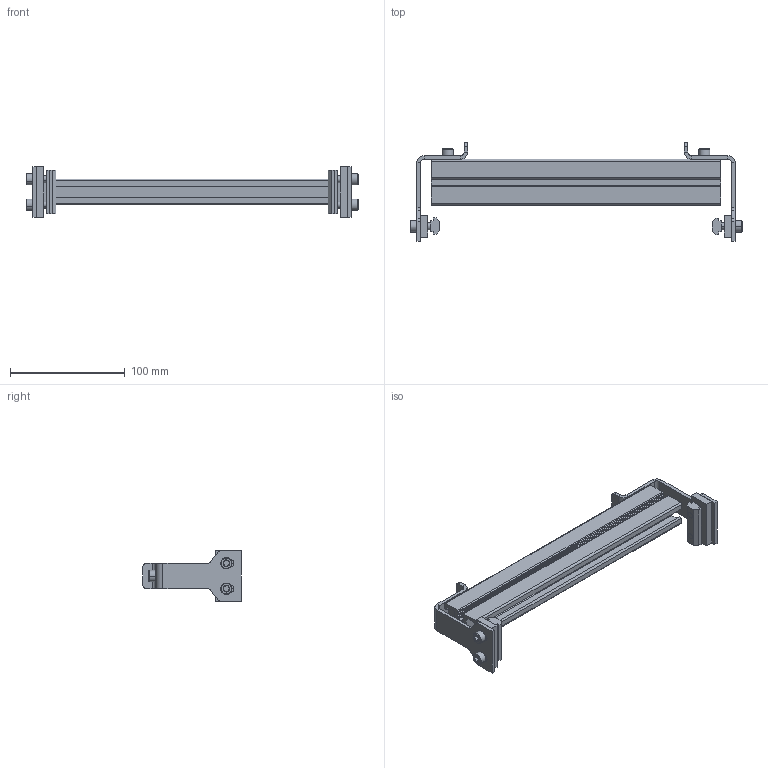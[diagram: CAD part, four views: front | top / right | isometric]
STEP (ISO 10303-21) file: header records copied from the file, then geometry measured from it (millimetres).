
FILE_DESCRIPTION (( 'STEP AP203' ), '1' );
FILE_NAME ('207133-10.STEP', '2018-11-01T18:41:22', ( '' ), ( '' ), 'SwSTEP 2.0', 'SolidWorks 2017', '' );
FILE_SCHEMA (( 'CONFIG_CONTROL_DESIGN' ));
Length unit declared in the file: inch
Products named in the file (8): 9206XXM_920620M; 202444; 201937; 639971M_CAE; 9206XXM_920614M; 200626M; 207135-WW_207135-10; 207133-10
Assembly tree (15 placements, depth 2):
  207133-10
    201937  x2
    207135-WW_207135-10
    202444  x2
    200626M  x2
    639971M_CAE  x2
    9206XXM_920614M  x2
    9206XXM_920620M  x4
Bounding box: 289.77 x 85.8 x 44.45 mm (x, y, z)
Volume: 147049.7 mm3; surface area: 92606.8 mm2
Topology: 15 solids, 15 shells, 428 faces, 1030 edges, 644 vertices
Faces by surface type: plane 258, cylinder 104, cone 66
Entity records: 8258 total; most frequent: CARTESIAN_POINT 1362, DIRECTION 1216, ORIENTED_EDGE 1200, EDGE_CURVE 600, LINE 460, VECTOR 460, VERTEX_POINT 384, AXIS2_PLACEMENT_3D 378
